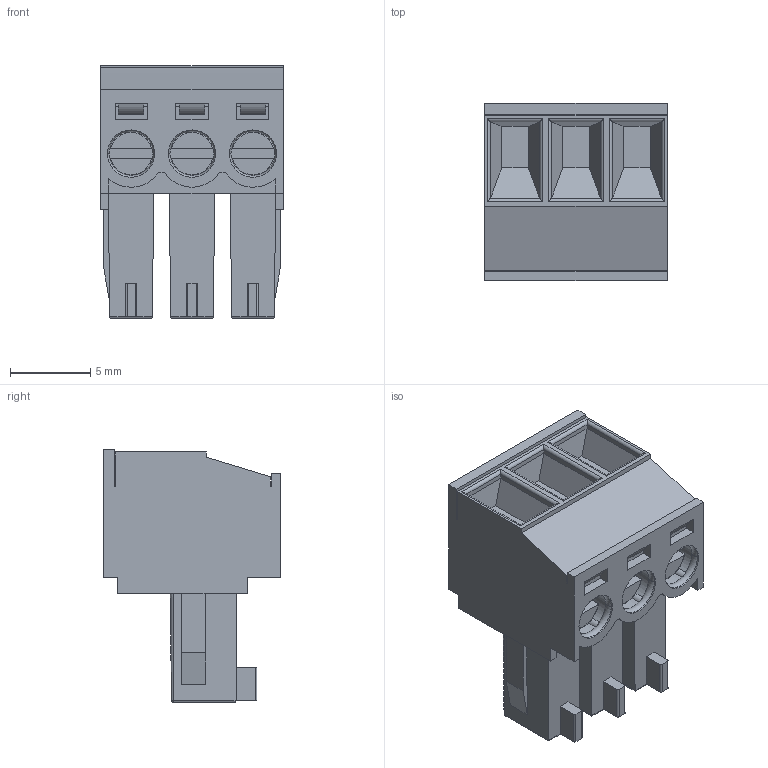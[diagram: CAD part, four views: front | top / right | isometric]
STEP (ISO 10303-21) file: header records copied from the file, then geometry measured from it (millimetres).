
FILE_DESCRIPTION((''),'2;1');
FILE_NAME('3','2019-03-29T',('zhenbing.lai'),(''),'CREO PARAMETRIC BY PTC INC, 2016260','CREO PARAMETRIC BY PTC INC, 2016260','');
FILE_SCHEMA(('CONFIG_CONTROL_DESIGN'));
Length unit declared in the file: millimetre
Products named in the file (1): 3
Bounding box: 11.43 x 11.1 x 15.8 mm (x, y, z)
Volume: 1111 mm3; surface area: 1226.9 mm2
Topology: 1 solids, 1 shells, 322 faces, 883 edges, 576 vertices
Faces by surface type: plane 205, cylinder 78, torus 18, cone 15, bspline 6
Entity records: 10724 total; most frequent: CARTESIAN_POINT 2429, ORIENTED_EDGE 1766, DIRECTION 1684, EDGE_CURVE 883, VERTEX_POINT 576, VECTOR 566, LINE 566, AXIS2_PLACEMENT_3D 559
